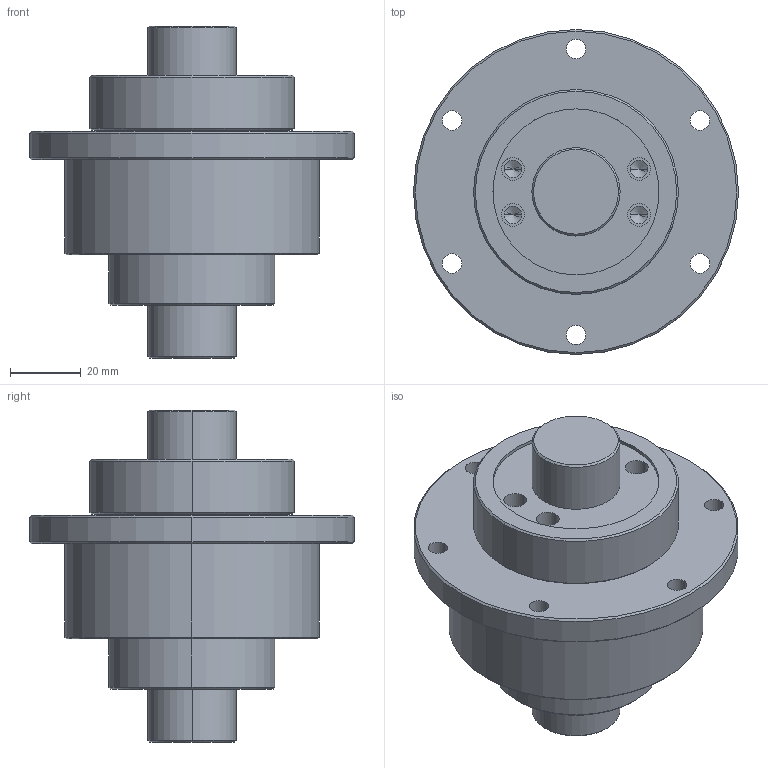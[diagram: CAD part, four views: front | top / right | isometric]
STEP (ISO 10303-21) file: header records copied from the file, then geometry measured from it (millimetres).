
FILE_DESCRIPTION (( 'STEP AP203' ), '1' );
FILE_NAME ('RFBY2525.STEP', '2014-11-13T09:02:20', ( '' ), ( '' ), 'SwSTEP 2.0', 'SolidWorks 2014', '' );
FILE_SCHEMA (( 'CONFIG_CONTROL_DESIGN' ));
Length unit declared in the file: millimetre
Products named in the file (1): RFBY2525
Bounding box: 92 x 92 x 94 mm (x, y, z)
Volume: 239510.5 mm3; surface area: 46528.9 mm2
Topology: 3 solids, 3 shells, 84 faces, 186 edges, 112 vertices
Faces by surface type: cylinder 46, cone 24, plane 14
Entity records: 2395 total; most frequent: DIRECTION 456, CARTESIAN_POINT 375, ORIENTED_EDGE 356, AXIS2_PLACEMENT_3D 193, EDGE_CURVE 178, EDGE_LOOP 112, VERTEX_POINT 112, CIRCLE 108
